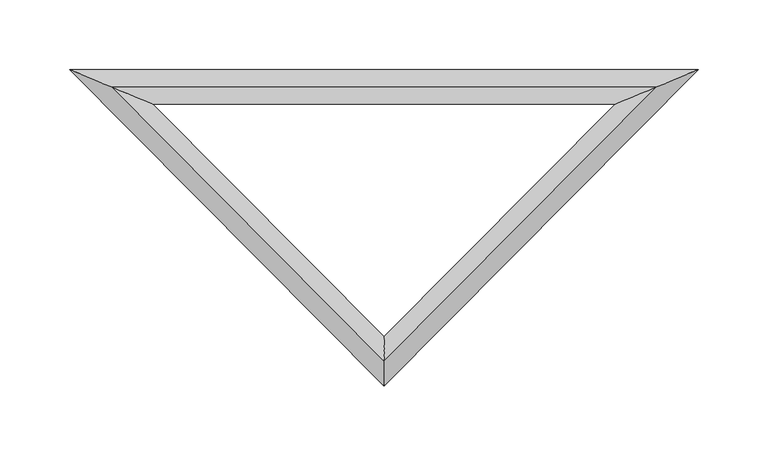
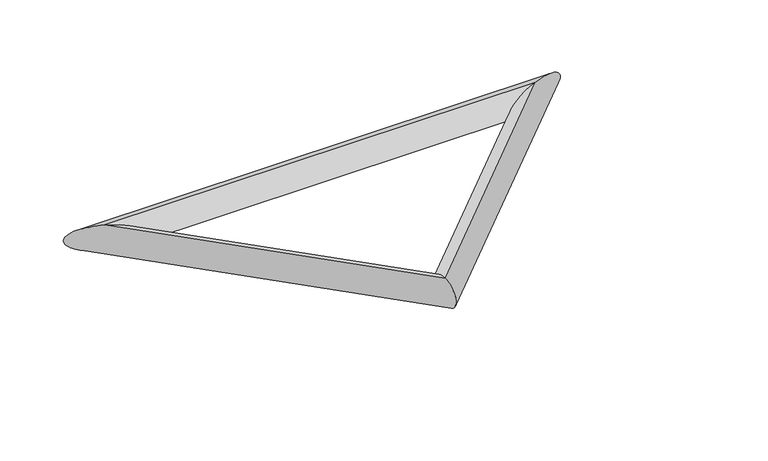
"""IFC4 building model written with IfcOpenShell, lengths in millimetres: plate geometry, ZZK PilotoBIM : ZZK PilotoBIM."""

from ifc_helpers import new_model, si_unit, frame, origin, place, context, project, spatial, ellipse_curve, source, transform, mapped, element, save
from ifc_brep_helpers import cylinder_surface, advanced_brep


def plate_4b5a16a1(model_context):
    return source(origin(), model_context, "Body", "AdvancedBrep", [
        advanced_brep(
        [(6292.2365997, 5145.9072801, 12.5), (6292.2365997, 5145.9072801, -12.5), (5899.7634003, 5145.9072801, -12.5), (5899.7634003, 5145.9072801, 12.5), (6096.0, 4948.1854399, -12.5), (6096.0, 4948.1854399, 12.5)],
        [
            (0, 1, ellipse_curve(frame((6292.2365997, 5145.9072801, 0.0), z_axis=(-0.38442427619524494, 0.9231565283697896, 0.0), x_axis=(0.9231565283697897, 0.38442427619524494, 0.0)), 32.5161567, 12.5)),
            (1, 2),
            (2, 3, ellipse_curve(frame((5899.7634003, 5145.9072801, 0.0), z_axis=(0.384424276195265, 0.9231565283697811, 0.0), x_axis=(0.9231565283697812, -0.384424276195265, 0.0)), 32.5161567, 12.5)),
            (3, 0),
            (1, 0, ellipse_curve(frame((6292.2365997, 5145.9072801, 0.0), z_axis=(-0.38442427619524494, 0.9231565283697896, 0.0), x_axis=(0.9231565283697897, 0.38442427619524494, 0.0)), 32.5161567, 12.5)),
            (3, 2, ellipse_curve(frame((5899.7634003, 5145.9072801, 0.0), z_axis=(0.384424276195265, 0.9231565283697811, 0.0), x_axis=(0.9231565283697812, -0.384424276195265, 0.0)), 32.5161567, 12.5)),
            (2, 4),
            (4, 5, ellipse_curve(frame((6096.0, 4948.1854399, 0.0), z_axis=(-1.0, 0.0, 0.0), x_axis=(0.0, 1.0, 0.0)), 17.7446934, 12.5)),
            (5, 3),
            (5, 4, ellipse_curve(frame((6096.0, 4948.1854399, 0.0), z_axis=(-1.0, 0.0, 0.0), x_axis=(0.0, 1.0, 0.0)), 17.7446934, 12.5)),
            (4, 1),
            (0, 5),
        ],
        [
            cylinder_surface(frame((6292.2365997, 5145.9072801, 0.0), z_axis=(1.0, 0.0, 0.0), x_axis=(0.0, 1.0, 0.0)), 12.5),
            cylinder_surface(frame((5899.7634003, 5145.9072801, 0.0), z_axis=(-0.7044359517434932, 0.7097675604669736, 0.0), x_axis=(-0.7097675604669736, -0.7044359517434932, 0.0)), 12.5),
            cylinder_surface(frame((6096.0, 4948.1854399, 0.0), z_axis=(-0.704435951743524, -0.709767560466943, 0.0), x_axis=(0.709767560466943, -0.704435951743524, 0.0)), 12.5),
        ],
        [
            (0, [[1, 2, 3, 4]]),
            (0, [[5, -4, 6, -2]]),
            (1, [[-3, 7, 8, 9]]),
            (1, [[-6, -9, 10, -7]]),
            (2, [[-8, 11, -1, 12]]),
            (2, [[-10, -12, -5, -11]]),
        ],
    ),
    ])


if __name__ == "__main__":
    model = new_model("IFC4")
    model_context = context("Model", 3, world=origin())
    ifc_project = project(units=[si_unit("LENGTHUNIT", "METRE", prefix="MILLI")], contexts=[model_context])
    site = spatial("IfcSite", under=ifc_project)
    building = spatial("IfcBuilding", under=site)
    placement = place(None, origin())
    plate_shape = plate_4b5a16a1(model_context)
    element("IfcPlate", 1, ObjectType="ZZK PilotoBIM : ZZK PilotoBIM", at=placement, inside=building, context=model_context, shape_type="MappedRepresentation", body=[
        mapped(plate_shape, transform((0.0, 0.0, 0.0), x_axis=(1.0, 0.0, 0.0), y_axis=(0.0, 1.0, 0.0), z_axis=(0.0, 0.0, 1.0))),
    ])
    save(model, "model.ifc")
